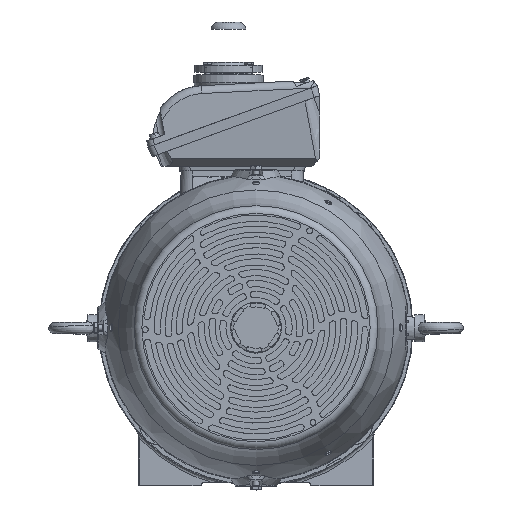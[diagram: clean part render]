
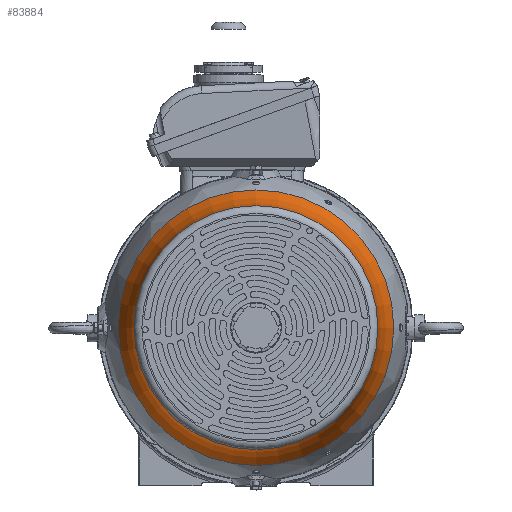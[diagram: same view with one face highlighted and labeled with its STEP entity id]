
A CAD part, top view. The second image highlights one B-rep face of the part: STEP entity #83884.
In plain terms, the highlighted toroidal (fillet/blend) face has major radius 333.581 mm and minor radius 178.663 mm.
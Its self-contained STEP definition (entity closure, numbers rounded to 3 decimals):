
#5087=TOROIDAL_SURFACE('',#90633,333.581,178.663);
#10146=FACE_OUTER_BOUND('',#15138,.T.);
#15138=EDGE_LOOP('',(#65005,#65006,#65007,#65008,#65009,#65010));
#19500=CIRCLE('',#90634,155.304);
#19501=CIRCLE('',#90635,155.304);
#19502=CIRCLE('',#90636,178.663);
#19503=CIRCLE('',#90637,175.502);
#19504=CIRCLE('',#90638,175.502);
#35431=VERTEX_POINT('',#161401);
#35432=VERTEX_POINT('',#161402);
#35433=VERTEX_POINT('',#161405);
#35434=VERTEX_POINT('',#161407);
#45878=EDGE_CURVE('',#35431,#35432,#19500,.T.);
#45879=EDGE_CURVE('',#35432,#35431,#19501,.T.);
#45880=EDGE_CURVE('',#35432,#35433,#19502,.T.);
#45881=EDGE_CURVE('',#35433,#35434,#19503,.T.);
#45882=EDGE_CURVE('',#35434,#35433,#19504,.T.);
#65005=ORIENTED_EDGE('',*,*,#45878,.F.);
#65006=ORIENTED_EDGE('',*,*,#45879,.F.);
#65007=ORIENTED_EDGE('',*,*,#45880,.T.);
#65008=ORIENTED_EDGE('',*,*,#45881,.T.);
#65009=ORIENTED_EDGE('',*,*,#45882,.T.);
#65010=ORIENTED_EDGE('',*,*,#45880,.F.);
#83884=ADVANCED_FACE('',(#10146),#5087,.F.);
#90633=AXIS2_PLACEMENT_3D('',#161400,#106652,#106653);
#90634=AXIS2_PLACEMENT_3D('',#161403,#106654,#106655);
#90635=AXIS2_PLACEMENT_3D('',#161404,#106656,#106657);
#90636=AXIS2_PLACEMENT_3D('',#161406,#106658,#106659);
#90637=AXIS2_PLACEMENT_3D('',#161408,#106660,#106661);
#90638=AXIS2_PLACEMENT_3D('',#161409,#106662,#106663);
#106652=DIRECTION('center_axis',(0.,0.,
1.));
#106653=DIRECTION('ref_axis',(0.,1.,0.));
#106654=DIRECTION('center_axis',(0.,0.,
1.));
#106655=DIRECTION('ref_axis',(0.,1.,0.));
#106656=DIRECTION('center_axis',(0.,0.,
1.));
#106657=DIRECTION('ref_axis',(0.,1.,0.));
#106658=DIRECTION('center_axis',(-1.,0.,0.));
#106659=DIRECTION('ref_axis',(0.,-1.,0.));
#106660=DIRECTION('center_axis',(0.,0.,
1.));
#106661=DIRECTION('ref_axis',(0.,1.,0.));
#106662=DIRECTION('center_axis',(0.,0.,
1.));
#106663=DIRECTION('ref_axis',(0.,1.,0.));
#161400=CARTESIAN_POINT('Origin',(0.,0.,
778.528));
#161401=CARTESIAN_POINT('',(0.,155.304,766.784));
#161402=CARTESIAN_POINT('',(0.,-155.304,766.784));
#161403=CARTESIAN_POINT('Origin',(0.,0.,
766.784));
#161404=CARTESIAN_POINT('Origin',(0.,0.,
766.784));
#161405=CARTESIAN_POINT('',(0.,-175.502,695.273));
#161406=CARTESIAN_POINT('Origin',(0.,-333.581,
778.528));
#161407=CARTESIAN_POINT('',(0.,175.502,695.273));
#161408=CARTESIAN_POINT('Origin',(0.,0.,
695.273));
#161409=CARTESIAN_POINT('Origin',(0.,0.,
695.273));
